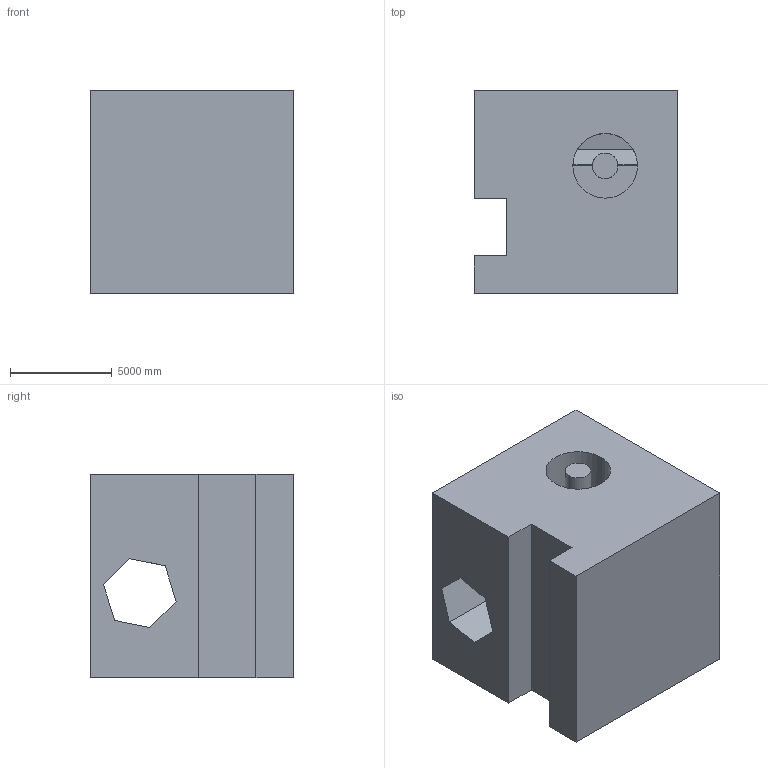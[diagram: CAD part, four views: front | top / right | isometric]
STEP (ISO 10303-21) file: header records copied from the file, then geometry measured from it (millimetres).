
FILE_DESCRIPTION (( 'STEP AP203' ), '1' );
FILE_NAME ('243.STEP', '2022-07-28T14:04:44', ( 'user' ), ( '' ), 'SwSTEP 2.0', 'SolidWorks 2021', '' );
FILE_SCHEMA (( 'CONFIG_CONTROL_DESIGN' ));
Length unit declared in the file: centimetre
Products named in the file (1): 243
Bounding box: 10000 x 10000 x 10000 mm (x, y, z)
Volume: 840962507988.7 mm3; surface area: 769086290.2 mm2
Topology: 1 solids, 1 shells, 22 faces, 60 edges, 40 vertices
Faces by surface type: plane 18, cylinder 4
Entity records: 779 total; most frequent: CARTESIAN_POINT 129, ORIENTED_EDGE 120, DIRECTION 114, EDGE_CURVE 60, VECTOR 48, LINE 48, VERTEX_POINT 40, AXIS2_PLACEMENT_3D 33
